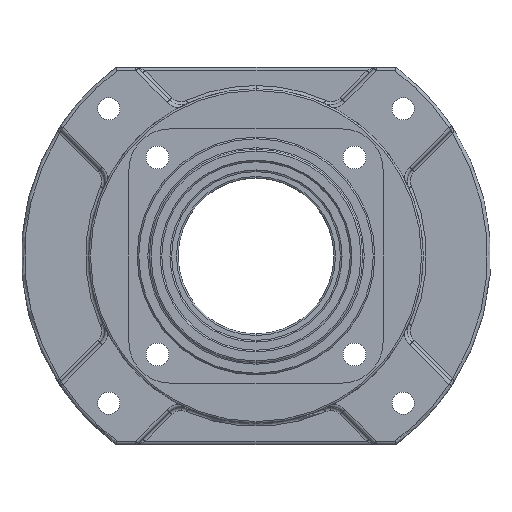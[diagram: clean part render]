
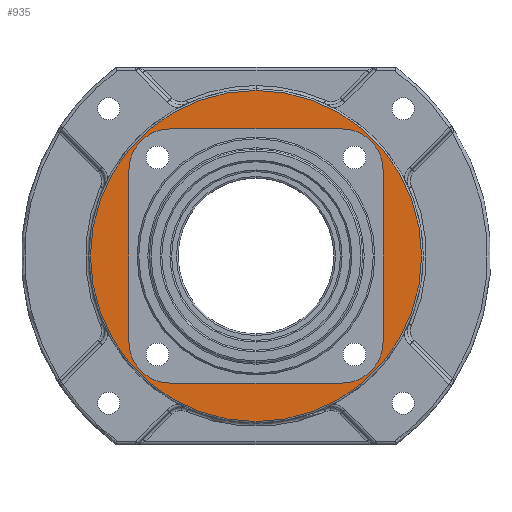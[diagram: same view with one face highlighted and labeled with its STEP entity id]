
A CAD part, left-side view. The second image highlights one B-rep face of the part: STEP entity #935.
In plain terms, the highlighted planar face has unit normal (-1, 0, 0).
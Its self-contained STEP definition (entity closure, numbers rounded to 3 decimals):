
#935 = ADVANCED_FACE ( 'NONE', ( #7029, #7039 ), #7789, .T. ) ;
#1005 = EDGE_CURVE ( 'NONE', #6633, #3445, #1773, .T. ) ;
#1006 = EDGE_CURVE ( 'NONE', #1480, #6633, #1768, .T. ) ;
#1007 = EDGE_CURVE ( 'NONE', #6634, #3449, #1774, .T. ) ;
#1008 = EDGE_CURVE ( 'NONE', #6635, #6634, #1776, .T. ) ;
#1009 = EDGE_CURVE ( 'NONE', #6632, #6635, #1777, .T. ) ;
#1480 = VERTEX_POINT ( 'NONE', #2608 ) ;
#1768 = CIRCLE ( 'NONE', #7162, 25. ) ;
#1773 = LINE ( 'NONE', #2424, #1775 ) ;
#1774 = CIRCLE ( 'NONE', #7163, 25. ) ;
#1775 = VECTOR ( 'NONE', #2425, 1000. ) ;
#1776 = LINE ( 'NONE', #2434, #1779 ) ;
#1777 = CIRCLE ( 'NONE', #7164, 25. ) ;
#1779 = VECTOR ( 'NONE', #2438, 1000. ) ;
#2424 = CARTESIAN_POINT ( 'NONE',  ( -60.7, -77.5, -52.5 ) ) ;
#2425 = DIRECTION ( 'NONE',  ( 0., 0., 1. ) ) ;
#2432 = CARTESIAN_POINT ( 'NONE',  ( -60.7, -52.5, -52.5 ) ) ;
#2433 = DIRECTION ( 'NONE',  ( -1., 0., 0. ) ) ;
#2434 = CARTESIAN_POINT ( 'NONE',  ( -60.7, 77.5, -52.5 ) ) ;
#2435 = CARTESIAN_POINT ( 'NONE',  ( -60.7, 52.5, -52.5 ) ) ;
#2436 = DIRECTION ( 'NONE',  ( -1., 0., 0. ) ) ;
#2437 = DIRECTION ( 'NONE',  ( 0., 0., -1. ) ) ;
#2438 = DIRECTION ( 'NONE',  ( 0., 0., -1. ) ) ;
#2439 = CARTESIAN_POINT ( 'NONE',  ( -60.7, 52.5, 52.5 ) ) ;
#2440 = DIRECTION ( 'NONE',  ( -1., 0., 0. ) ) ;
#2441 = DIRECTION ( 'NONE',  ( 0., 0., -1. ) ) ;
#2608 = CARTESIAN_POINT ( 'NONE',  ( -60.7, -52.5, -77.5 ) ) ;
#2687 = CARTESIAN_POINT ( 'NONE',  ( -60.7, -52.5, 77.5 ) ) ;
#2688 = CARTESIAN_POINT ( 'NONE',  ( -60.7, -77.5, 52.5 ) ) ;
#2692 = CARTESIAN_POINT ( 'NONE',  ( -60.7, 52.5, -77.5 ) ) ;
#2849 = CIRCLE ( 'NONE', #3166, 101. ) ;
#2940 = CIRCLE ( 'NONE', #3225, 25. ) ;
#2942 = CIRCLE ( 'NONE', #3224, 101. ) ;
#2943 = VECTOR ( 'NONE', #5192, 1000. ) ;
#2944 = LINE ( 'NONE', #5194, #2943 ) ;
#3166 = AXIS2_PLACEMENT_3D ( 'NONE', #4289, #4290, #4291 ) ;
#3224 = AXIS2_PLACEMENT_3D ( 'NONE', #5204, #5205, #5206 ) ;
#3225 = AXIS2_PLACEMENT_3D ( 'NONE', #5209, #5210, #5211 ) ;
#3444 = VERTEX_POINT ( 'NONE', #2687 ) ;
#3445 = VERTEX_POINT ( 'NONE', #2688 ) ;
#3449 = VERTEX_POINT ( 'NONE', #2692 ) ;
#3702 = EDGE_CURVE ( 'NONE', #3994, #3995, #2849, .T. ) ;
#3994 = VERTEX_POINT ( 'NONE', #4890 ) ;
#3995 = VERTEX_POINT ( 'NONE', #4892 ) ;
#3999 = EDGE_LOOP ( 'NONE', ( #6130, #6131, #6132, #6133, #6134, #6135, #6136, #6137 ) ) ;
#4003 = EDGE_LOOP ( 'NONE', ( #6128, #6129 ) ) ;
#4289 = CARTESIAN_POINT ( 'NONE',  ( -60.7, 0., 0. ) ) ;
#4290 = DIRECTION ( 'NONE',  ( -1., 0., 0. ) ) ;
#4291 = DIRECTION ( 'NONE',  ( 0., 0., 1. ) ) ;
#4890 = CARTESIAN_POINT ( 'NONE',  ( -60.7, 0., 101. ) ) ;
#4892 = CARTESIAN_POINT ( 'NONE',  ( -60.7, 0., -101. ) ) ;
#5168 = CARTESIAN_POINT ( 'NONE',  ( -60.7, 52.5, 77.5 ) ) ;
#5169 = CARTESIAN_POINT ( 'NONE',  ( -60.7, -77.5, -52.5 ) ) ;
#5170 = CARTESIAN_POINT ( 'NONE',  ( -60.7, 77.5, 52.5 ) ) ;
#5172 = CARTESIAN_POINT ( 'NONE',  ( -60.7, 77.5, -52.5 ) ) ;
#5192 = DIRECTION ( 'NONE',  ( 0., 1., 0. ) ) ;
#5194 = CARTESIAN_POINT ( 'NONE',  ( -60.7, 52.5, 77.5 ) ) ;
#5204 = CARTESIAN_POINT ( 'NONE',  ( -60.7, 0., 0. ) ) ;
#5205 = DIRECTION ( 'NONE',  ( -1., 0., 0. ) ) ;
#5206 = DIRECTION ( 'NONE',  ( 0., 0., 1. ) ) ;
#5209 = CARTESIAN_POINT ( 'NONE',  ( -60.7, -52.5, 52.5 ) ) ;
#5210 = DIRECTION ( 'NONE',  ( -1., 0., 0. ) ) ;
#5211 = DIRECTION ( 'NONE',  ( 0., 0., -1. ) ) ;
#6128 = ORIENTED_EDGE ( 'NONE', *, *, #3702, .T. ) ;
#6129 = ORIENTED_EDGE ( 'NONE', *, *, #6687, .T. ) ;
#6130 = ORIENTED_EDGE ( 'NONE', *, *, #6685, .F. ) ;
#6131 = ORIENTED_EDGE ( 'NONE', *, *, #6688, .F. ) ;
#6132 = ORIENTED_EDGE ( 'NONE', *, *, #1005, .F. ) ;
#6133 = ORIENTED_EDGE ( 'NONE', *, *, #1006, .F. ) ;
#6134 = ORIENTED_EDGE ( 'NONE', *, *, #11749, .F. ) ;
#6135 = ORIENTED_EDGE ( 'NONE', *, *, #1007, .F. ) ;
#6136 = ORIENTED_EDGE ( 'NONE', *, *, #1008, .F. ) ;
#6137 = ORIENTED_EDGE ( 'NONE', *, *, #1009, .F. ) ;
#6632 = VERTEX_POINT ( 'NONE', #5168 ) ;
#6633 = VERTEX_POINT ( 'NONE', #5169 ) ;
#6634 = VERTEX_POINT ( 'NONE', #5172 ) ;
#6635 = VERTEX_POINT ( 'NONE', #5170 ) ;
#6685 = EDGE_CURVE ( 'NONE', #3444, #6632, #2944, .T. ) ;
#6687 = EDGE_CURVE ( 'NONE', #3995, #3994, #2942, .T. ) ;
#6688 = EDGE_CURVE ( 'NONE', #3445, #3444, #2940, .T. ) ;
#7029 = FACE_OUTER_BOUND ( 'NONE', #4003, .T. ) ;
#7039 = FACE_BOUND ( 'NONE', #3999, .T. ) ;
#7121 = AXIS2_PLACEMENT_3D ( 'NONE', #7795, #7796, #7797 ) ;
#7162 = AXIS2_PLACEMENT_3D ( 'NONE', #2432, #2433, #7945 ) ;
#7163 = AXIS2_PLACEMENT_3D ( 'NONE', #2435, #2436, #2437 ) ;
#7164 = AXIS2_PLACEMENT_3D ( 'NONE', #2439, #2440, #2441 ) ;
#7789 = PLANE ( 'NONE',  #7121 ) ;
#7795 = CARTESIAN_POINT ( 'NONE',  ( -60.7, 0., 0. ) ) ;
#7796 = DIRECTION ( 'NONE',  ( -1., 0., 0. ) ) ;
#7797 = DIRECTION ( 'NONE',  ( 0., 0., 1. ) ) ;
#7945 = DIRECTION ( 'NONE',  ( 0., 0., 1. ) ) ;
#7985 = CARTESIAN_POINT ( 'NONE',  ( -60.7, 52.5, -77.5 ) ) ;
#7986 = DIRECTION ( 'NONE',  ( 0., -1., 0. ) ) ;
#10469 = LINE ( 'NONE', #7985, #10472 ) ;
#10472 = VECTOR ( 'NONE', #7986, 1000. ) ;
#11749 = EDGE_CURVE ( 'NONE', #3449, #1480, #10469, .T. ) ;
